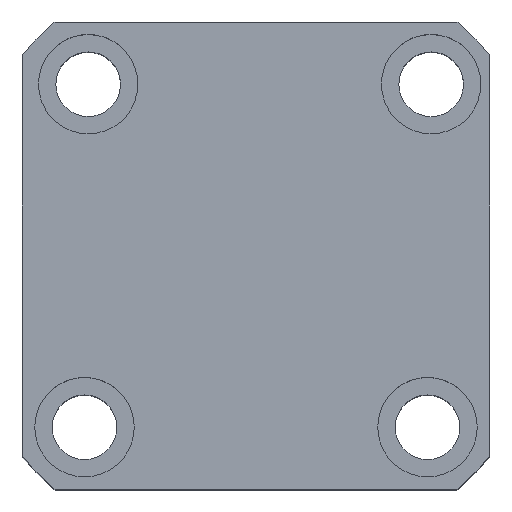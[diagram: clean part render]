
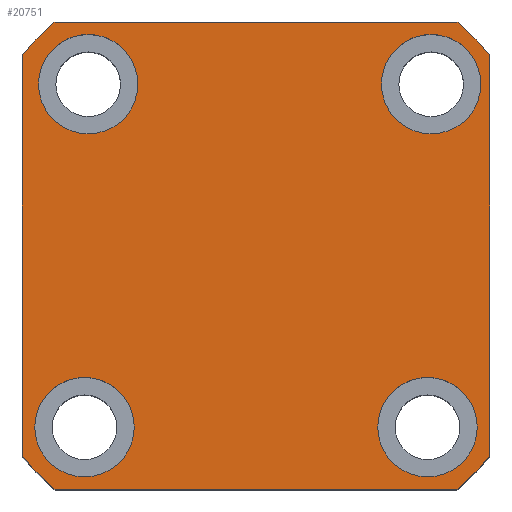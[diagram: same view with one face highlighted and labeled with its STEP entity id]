
A CAD part, top view. The second image highlights one B-rep face of the part: STEP entity #20751.
In plain terms, the highlighted planar face has unit normal (0, 0, 1) as drawn and (0, 0, -1) by its records, which use the part's own axes.
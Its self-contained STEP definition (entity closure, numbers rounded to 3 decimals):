
#48 = VERTEX_POINT ( 'NONE', #10921 ) ;
#68 = CARTESIAN_POINT ( 'NONE',  ( 35.23, -34.5, 0. ) ) ;
#76 = VERTEX_POINT ( 'NONE', #13716 ) ;
#97 = ORIENTED_EDGE ( 'NONE', *, *, #12348, .F. ) ;
#170 = CIRCLE ( 'NONE', #14492, 10. ) ;
#205 = CARTESIAN_POINT ( 'NONE',  ( 47., 40.435, 0. ) ) ;
#707 = CARTESIAN_POINT ( 'NONE',  ( -33.77, -34.5, 0. ) ) ;
#748 = VERTEX_POINT ( 'NONE', #7594 ) ;
#1214 = EDGE_CURVE ( 'NONE', #20189, #9090, #13475, .T. ) ;
#1414 = DIRECTION ( 'NONE',  ( -1., 0., 0. ) ) ;
#1798 = DIRECTION ( 'NONE',  ( -1., 0., 0. ) ) ;
#1873 = ORIENTED_EDGE ( 'NONE', *, *, #20343, .F. ) ;
#1904 = VERTEX_POINT ( 'NONE', #17936 ) ;
#1939 = EDGE_LOOP ( 'NONE', ( #7171, #17796 ) ) ;
#1983 = DIRECTION ( 'NONE',  ( 0., 0., 1. ) ) ;
#2036 = CIRCLE ( 'NONE', #9571, 10. ) ;
#2080 = EDGE_CURVE ( 'NONE', #11323, #19158, #2832, .T. ) ;
#2127 = AXIS2_PLACEMENT_3D ( 'NONE', #707, #12893, #2439 ) ;
#2372 = VERTEX_POINT ( 'NONE', #205 ) ;
#2413 = DIRECTION ( 'NONE',  ( -1., 0., 0. ) ) ;
#2414 = CARTESIAN_POINT ( 'NONE',  ( 35.23, -34.5, 0. ) ) ;
#2439 = DIRECTION ( 'NONE',  ( -1., 0., 0. ) ) ;
#2570 = CARTESIAN_POINT ( 'NONE',  ( 34.5, 34.5, 0. ) ) ;
#2652 = CARTESIAN_POINT ( 'NONE',  ( -47., 47., 0. ) ) ;
#2768 = ORIENTED_EDGE ( 'NONE', *, *, #16524, .F. ) ;
#2832 = CIRCLE ( 'NONE', #5847, 10. ) ;
#3179 = CIRCLE ( 'NONE', #2127, 10. ) ;
#3188 = CARTESIAN_POINT ( 'NONE',  ( 0., 0., 0. ) ) ;
#3278 = CARTESIAN_POINT ( 'NONE',  ( -40.435, 47., 0. ) ) ;
#3406 = CIRCLE ( 'NONE', #18212, 10. ) ;
#3931 = CARTESIAN_POINT ( 'NONE',  ( 25.23, -34.5, 0. ) ) ;
#4185 = DIRECTION ( 'NONE',  ( -1., 0., 0. ) ) ;
#4344 = DIRECTION ( 'NONE',  ( -1., 0., 0. ) ) ;
#4497 = CARTESIAN_POINT ( 'NONE',  ( -44.5, 34.5, 0. ) ) ;
#4505 = ORIENTED_EDGE ( 'NONE', *, *, #9435, .F. ) ;
#4507 = VECTOR ( 'NONE', #17708, 1000. ) ;
#4539 = FACE_BOUND ( 'NONE', #17361, .T. ) ;
#4780 = VECTOR ( 'NONE', #1414, 1000. ) ;
#4840 = DIRECTION ( 'NONE',  ( 0., 0., -1. ) ) ;
#4953 = DIRECTION ( 'NONE',  ( 1., 0., 0. ) ) ;
#4993 = VERTEX_POINT ( 'NONE', #14980 ) ;
#5014 = CIRCLE ( 'NONE', #17186, 62. ) ;
#5053 = CIRCLE ( 'NONE', #6575, 62. ) ;
#5814 = ORIENTED_EDGE ( 'NONE', *, *, #12616, .F. ) ;
#5847 = AXIS2_PLACEMENT_3D ( 'NONE', #20333, #21680, #2413 ) ;
#5848 = CARTESIAN_POINT ( 'NONE',  ( 0., 0., 0. ) ) ;
#6172 = DIRECTION ( 'NONE',  ( 0., -1., 0. ) ) ;
#6294 = EDGE_LOOP ( 'NONE', ( #5814, #12344, #9648, #15358, #2768, #14762, #10433, #20520 ) ) ;
#6468 = LINE ( 'NONE', #19357, #19229 ) ;
#6575 = AXIS2_PLACEMENT_3D ( 'NONE', #3188, #15368, #4953 ) ;
#6715 = CIRCLE ( 'NONE', #10743, 10. ) ;
#7171 = ORIENTED_EDGE ( 'NONE', *, *, #10155, .F. ) ;
#7383 = DIRECTION ( 'NONE',  ( 0., 0., -1. ) ) ;
#7594 = CARTESIAN_POINT ( 'NONE',  ( 44.5, 34.5, 0. ) ) ;
#7595 = DIRECTION ( 'NONE',  ( 1., 0., 0. ) ) ;
#7908 = CARTESIAN_POINT ( 'NONE',  ( 47., -40.435, 0. ) ) ;
#7935 = AXIS2_PLACEMENT_3D ( 'NONE', #5848, #17978, #7595 ) ;
#8077 = EDGE_LOOP ( 'NONE', ( #1873, #4505 ) ) ;
#8150 = CARTESIAN_POINT ( 'NONE',  ( 0., 0., 0. ) ) ;
#8244 = EDGE_CURVE ( 'NONE', #18030, #16386, #5014, .T. ) ;
#8506 = ORIENTED_EDGE ( 'NONE', *, *, #17971, .F. ) ;
#8657 = DIRECTION ( 'NONE',  ( 0., 0., 1. ) ) ;
#9090 = VERTEX_POINT ( 'NONE', #3278 ) ;
#9180 = FACE_BOUND ( 'NONE', #1939, .T. ) ;
#9189 = DIRECTION ( 'NONE',  ( 0., 0., -1. ) ) ;
#9215 = VERTEX_POINT ( 'NONE', #13930 ) ;
#9334 = CARTESIAN_POINT ( 'NONE',  ( 45.23, -34.5, 0. ) ) ;
#9435 = EDGE_CURVE ( 'NONE', #21754, #13970, #21057, .T. ) ;
#9571 = AXIS2_PLACEMENT_3D ( 'NONE', #15239, #4840, #16972 ) ;
#9639 = EDGE_LOOP ( 'NONE', ( #8506, #97 ) ) ;
#9643 = CARTESIAN_POINT ( 'NONE',  ( 40.435, -47., 0. ) ) ;
#9648 = ORIENTED_EDGE ( 'NONE', *, *, #8244, .F. ) ;
#9851 = EDGE_CURVE ( 'NONE', #9090, #48, #5053, .T. ) ;
#9908 = DIRECTION ( 'NONE',  ( 1., 0., 0. ) ) ;
#10005 = CARTESIAN_POINT ( 'NONE',  ( -47., -40.435, 0. ) ) ;
#10052 = EDGE_CURVE ( 'NONE', #16386, #2372, #13216, .T. ) ;
#10155 = EDGE_CURVE ( 'NONE', #19158, #11323, #3406, .T. ) ;
#10372 = CARTESIAN_POINT ( 'NONE',  ( 47., 47., 0. ) ) ;
#10433 = ORIENTED_EDGE ( 'NONE', *, *, #9851, .F. ) ;
#10743 = AXIS2_PLACEMENT_3D ( 'NONE', #68, #12257, #1798 ) ;
#10921 = CARTESIAN_POINT ( 'NONE',  ( -47., 40.435, 0. ) ) ;
#11166 = AXIS2_PLACEMENT_3D ( 'NONE', #2570, #14755, #4344 ) ;
#11323 = VERTEX_POINT ( 'NONE', #14968 ) ;
#12257 = DIRECTION ( 'NONE',  ( 0., 0., -1. ) ) ;
#12344 = ORIENTED_EDGE ( 'NONE', *, *, #10052, .F. ) ;
#12348 = EDGE_CURVE ( 'NONE', #76, #1904, #2036, .T. ) ;
#12438 = CARTESIAN_POINT ( 'NONE',  ( 0., 0., 0. ) ) ;
#12616 = EDGE_CURVE ( 'NONE', #2372, #20189, #18359, .T. ) ;
#12847 = AXIS2_PLACEMENT_3D ( 'NONE', #2414, #14605, #4185 ) ;
#12893 = DIRECTION ( 'NONE',  ( 0., 0., -1. ) ) ;
#13216 = LINE ( 'NONE', #10372, #4507 ) ;
#13475 = LINE ( 'NONE', #14981, #4780 ) ;
#13516 = AXIS2_PLACEMENT_3D ( 'NONE', #8150, #20266, #9908 ) ;
#13716 = CARTESIAN_POINT ( 'NONE',  ( -23.77, -34.5, 0. ) ) ;
#13788 = FACE_BOUND ( 'NONE', #8077, .T. ) ;
#13930 = CARTESIAN_POINT ( 'NONE',  ( 24.5, 34.5, 0. ) ) ;
#13970 = VERTEX_POINT ( 'NONE', #3931 ) ;
#14070 = CIRCLE ( 'NONE', #11166, 10. ) ;
#14115 = ORIENTED_EDGE ( 'NONE', *, *, #21565, .F. ) ;
#14170 = DIRECTION ( 'NONE',  ( 1., 0., 0. ) ) ;
#14421 = PLANE ( 'NONE',  #7935 ) ;
#14492 = AXIS2_PLACEMENT_3D ( 'NONE', #19542, #9189, #21266 ) ;
#14605 = DIRECTION ( 'NONE',  ( 0., 0., -1. ) ) ;
#14755 = DIRECTION ( 'NONE',  ( 0., 0., -1. ) ) ;
#14762 = ORIENTED_EDGE ( 'NONE', *, *, #16381, .F. ) ;
#14968 = CARTESIAN_POINT ( 'NONE',  ( -24.5, 34.5, 0. ) ) ;
#14980 = CARTESIAN_POINT ( 'NONE',  ( -40.435, -47., 0. ) ) ;
#14981 = CARTESIAN_POINT ( 'NONE',  ( -47., 47., 0. ) ) ;
#15239 = CARTESIAN_POINT ( 'NONE',  ( -33.77, -34.5, 0. ) ) ;
#15358 = ORIENTED_EDGE ( 'NONE', *, *, #17004, .F. ) ;
#15368 = DIRECTION ( 'NONE',  ( 0., 0., 1. ) ) ;
#16381 = EDGE_CURVE ( 'NONE', #48, #18243, #21911, .T. ) ;
#16386 = VERTEX_POINT ( 'NONE', #7908 ) ;
#16524 = EDGE_CURVE ( 'NONE', #18243, #4993, #21380, .T. ) ;
#16972 = DIRECTION ( 'NONE',  ( -1., 0., 0. ) ) ;
#17004 = EDGE_CURVE ( 'NONE', #4993, #18030, #6468, .T. ) ;
#17186 = AXIS2_PLACEMENT_3D ( 'NONE', #19027, #8657, #20765 ) ;
#17293 = ORIENTED_EDGE ( 'NONE', *, *, #19746, .F. ) ;
#17347 = VECTOR ( 'NONE', #6172, 1000. ) ;
#17361 = EDGE_LOOP ( 'NONE', ( #14115, #17293 ) ) ;
#17708 = DIRECTION ( 'NONE',  ( 0., 1., 0. ) ) ;
#17784 = CARTESIAN_POINT ( 'NONE',  ( -34.5, 34.5, 0. ) ) ;
#17796 = ORIENTED_EDGE ( 'NONE', *, *, #2080, .F. ) ;
#17849 = FACE_OUTER_BOUND ( 'NONE', #6294, .T. ) ;
#17936 = CARTESIAN_POINT ( 'NONE',  ( -43.77, -34.5, 0. ) ) ;
#17971 = EDGE_CURVE ( 'NONE', #1904, #76, #3179, .T. ) ;
#17978 = DIRECTION ( 'NONE',  ( 0., 0., 1. ) ) ;
#18030 = VERTEX_POINT ( 'NONE', #9643 ) ;
#18212 = AXIS2_PLACEMENT_3D ( 'NONE', #17784, #7383, #19517 ) ;
#18243 = VERTEX_POINT ( 'NONE', #10005 ) ;
#18359 = CIRCLE ( 'NONE', #19998, 62. ) ;
#19027 = CARTESIAN_POINT ( 'NONE',  ( 0., 0., 0. ) ) ;
#19158 = VERTEX_POINT ( 'NONE', #4497 ) ;
#19229 = VECTOR ( 'NONE', #21092, 1000. ) ;
#19357 = CARTESIAN_POINT ( 'NONE',  ( -47., -47., 0. ) ) ;
#19517 = DIRECTION ( 'NONE',  ( -1., 0., 0. ) ) ;
#19542 = CARTESIAN_POINT ( 'NONE',  ( 34.5, 34.5, 0. ) ) ;
#19746 = EDGE_CURVE ( 'NONE', #748, #9215, #14070, .T. ) ;
#19998 = AXIS2_PLACEMENT_3D ( 'NONE', #12438, #1983, #14170 ) ;
#20189 = VERTEX_POINT ( 'NONE', #20560 ) ;
#20266 = DIRECTION ( 'NONE',  ( 0., 0., 1. ) ) ;
#20333 = CARTESIAN_POINT ( 'NONE',  ( -34.5, 34.5, 0. ) ) ;
#20343 = EDGE_CURVE ( 'NONE', #13970, #21754, #6715, .T. ) ;
#20520 = ORIENTED_EDGE ( 'NONE', *, *, #1214, .F. ) ;
#20560 = CARTESIAN_POINT ( 'NONE',  ( 40.435, 47., 0. ) ) ;
#20751 = ADVANCED_FACE ( 'NONE', ( #13788, #22418, #9180, #4539, #17849 ), #14421, .F. ) ;
#20765 = DIRECTION ( 'NONE',  ( 1., 0., 0. ) ) ;
#21057 = CIRCLE ( 'NONE', #12847, 10. ) ;
#21092 = DIRECTION ( 'NONE',  ( 1., 0., 0. ) ) ;
#21266 = DIRECTION ( 'NONE',  ( -1., 0., 0. ) ) ;
#21380 = CIRCLE ( 'NONE', #13516, 62. ) ;
#21565 = EDGE_CURVE ( 'NONE', #9215, #748, #170, .T. ) ;
#21680 = DIRECTION ( 'NONE',  ( 0., 0., -1. ) ) ;
#21754 = VERTEX_POINT ( 'NONE', #9334 ) ;
#21911 = LINE ( 'NONE', #2652, #17347 ) ;
#22418 = FACE_BOUND ( 'NONE', #9639, .T. ) ;
